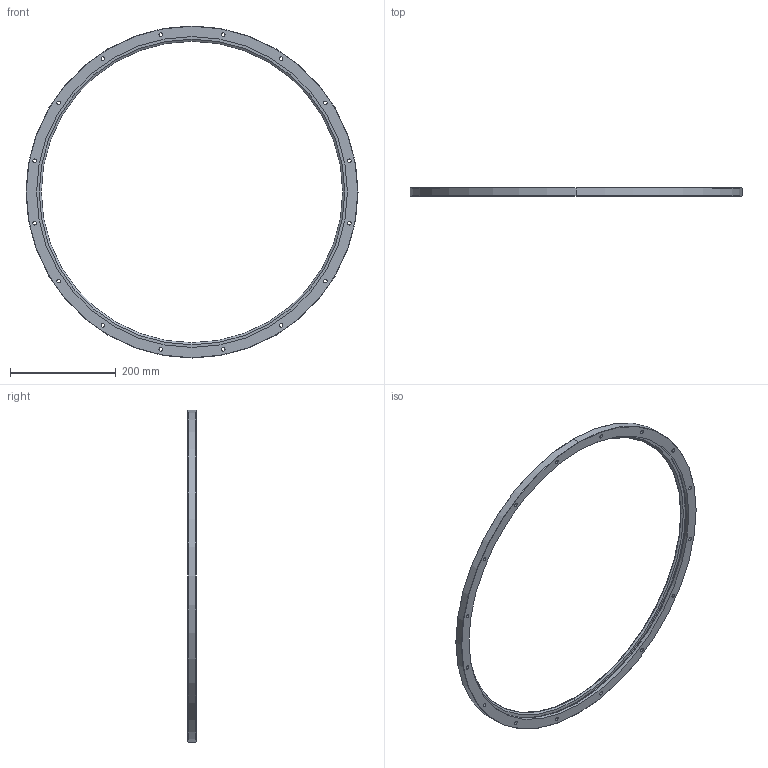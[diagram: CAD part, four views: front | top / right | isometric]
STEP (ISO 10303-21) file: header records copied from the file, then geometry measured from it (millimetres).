
FILE_DESCRIPTION(('STEP AP203'),'1');
FILE_NAME('rim_627_r360.stp','2021-08-30T06:10:50',('TraceParts'),('TraceParts S.A.'),'Spatial InterOp 3D',' ',' ');
FILE_SCHEMA(('CONFIG_CONTROL_DESIGN'));
Length unit declared in the file: millimetre
Products named in the file (1): 1
Bounding box: 627.5 x 15.5 x 627.5 mm (x, y, z)
Volume: 652394.6 mm3; surface area: 167413.9 mm2
Topology: 1 solids, 1 shells, 102 faces, 236 edges, 154 vertices
Faces by surface type: cylinder 70, plane 20, cone 8, torus 4
Entity records: 3090 total; most frequent: DIRECTION 600, CARTESIAN_POINT 493, ORIENTED_EDGE 472, AXIS2_PLACEMENT_3D 261, EDGE_CURVE 236, CIRCLE 158, EDGE_LOOP 154, VERTEX_POINT 154
